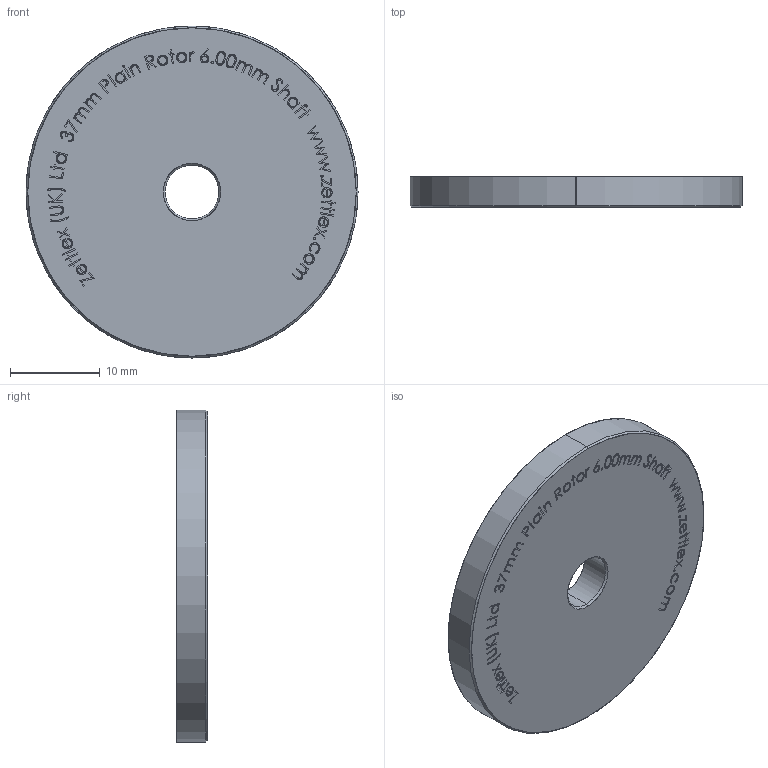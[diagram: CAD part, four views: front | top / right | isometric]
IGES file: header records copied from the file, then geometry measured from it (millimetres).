
Start section: SolidWorks IGES file using analytic representation for surfaces
Global section: file name: C:\Zettlex Data\Mechanical Drawings\4114\37mm Plain Rotor 6.00mm Shaft Rev 1-0.IGS; native system: SolidWorks 2015; preprocessor: SolidWorks 2015; author: Nigel; date: 150904.162107; units: millimetre
Bounding box: 37 x 3.5 x 37 mm (x, y, z)
Surface area: 2584 mm2 (no closed solid volume)
Topology: 0 solids, 0 shells, 717 faces, 7603 edges, 7603 vertices
Faces by surface type: bspline 701, revolution 16
